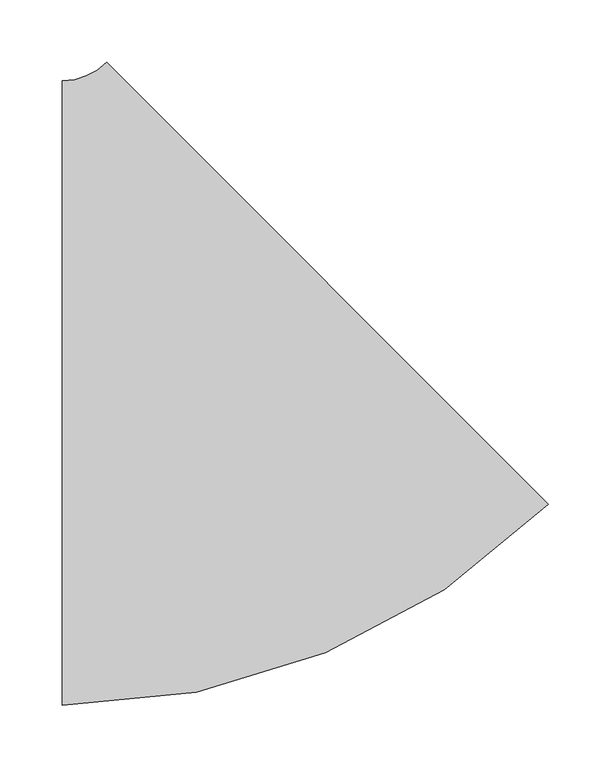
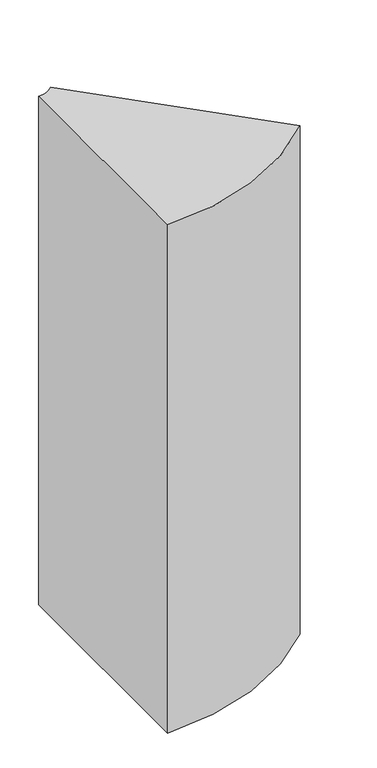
"""IFC4 building model written with IfcOpenShell, lengths in millimetres: duct fitting geometry, ADSK_ОтводВоздуховодов_Прямоугольный1 : Стандарт 2."""

from ifc_helpers import new_model, si_unit, point, frame, frame_2d, origin, place, context, project, spatial, polyline, circle_curve, trimmed, segment, composite_curve, outline, extrude, source, transform, mapped, element, save


def duct_fitting_1cf709c3(model_context):
    return source(origin(), model_context, "Body", "SweptSolid", [
        extrude(outline(composite_curve([segment(trimmed(circle_curve(frame_2d((-124.2640687, 300.0)), 550.0), [point((264.6446609, -88.9087297))], [point((-124.2640687, -250.0))], False, "CARTESIAN"), True, "CONTINUOUS"), segment(polyline([(-124.2640687, -250.0), (-124.2640687, 250.0)]), True, "CONTINUOUS"), segment(trimmed(circle_curve(frame_2d((-124.2640687, 300.0)), 50.0), [point((-124.2640687, 250.0))], [point((-88.9087297, 264.6446609))], True, "CARTESIAN"), True, "CONTINUOUS"), segment(polyline([(-88.9087297, 264.6446609), (264.6446609, -88.9087297)]), True, "CONTINUOUS")], self_intersect=False)), frame((0.0, 0.0, -600.0), z_axis=(0.0, 0.0, 1.0), x_axis=(1.0, 0.0, 0.0)), (0.0, 0.0, 1.0), 1200.0),
    ])


if __name__ == "__main__":
    model = new_model("IFC4")
    model_context = context("Model", 3, world=origin())
    ifc_project = project(units=[si_unit("LENGTHUNIT", "METRE", prefix="MILLI")], contexts=[model_context])
    site = spatial("IfcSite", under=ifc_project)
    building = spatial("IfcBuilding", under=site)
    placement = place(None, origin())
    duct_fitting_shape = duct_fitting_1cf709c3(model_context)
    element("IfcDuctFitting", 1, ObjectType="ADSK_ОтводВоздуховодов_Прямоугольный1 : Стандарт 2", at=placement, inside=building, context=model_context, shape_type="MappedRepresentation", body=[
        mapped(duct_fitting_shape, transform((0.0, 0.0, 0.0), x_axis=(1.0, 0.0, 0.0), y_axis=(0.0, 1.0, 0.0), z_axis=(0.0, 0.0, 1.0))),
    ])
    save(model, "model.ifc")
